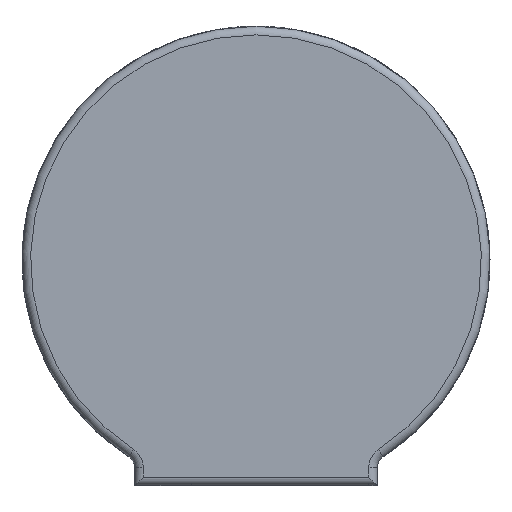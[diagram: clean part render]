
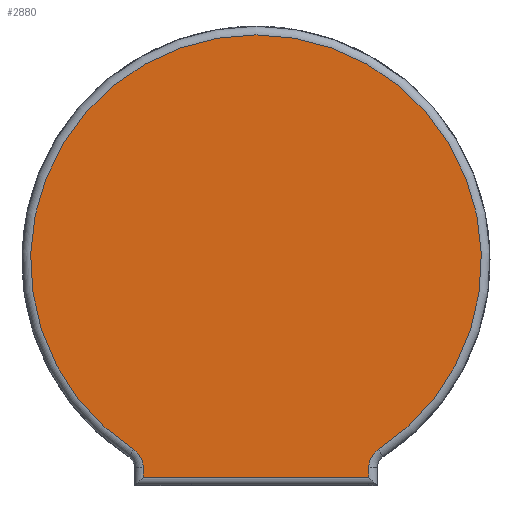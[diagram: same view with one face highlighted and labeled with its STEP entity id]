
A CAD part, front view. The second image highlights one B-rep face of the part: STEP entity #2880.
In plain terms, the highlighted planar face has unit normal (0, -1, 0).
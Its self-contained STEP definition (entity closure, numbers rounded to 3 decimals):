
#72 = CYLINDRICAL_SURFACE('',#73,1.);
#73 = AXIS2_PLACEMENT_3D('',#74,#75,#76);
#74 = CARTESIAN_POINT('',(-13.,-69.,-23.917));
#75 = DIRECTION('',(-0.,-0.,-1.));
#76 = DIRECTION('',(0.,-1.,0.));
#214 = TOROIDAL_SURFACE('',#215,2.5,1.);
#215 = AXIS2_PLACEMENT_3D('',#216,#217,#218);
#216 = CARTESIAN_POINT('',(-15.5,-69.,-23.917));
#217 = DIRECTION('',(-0.,-1.,-0.));
#218 = DIRECTION('',(0.544,-0.,0.839));
#321 = VERTEX_POINT('',#322);
#322 = CARTESIAN_POINT('',(-13.,-70.,-23.917));
#344 = VERTEX_POINT('',#345);
#345 = CARTESIAN_POINT('',(-13.,-70.,-25.));
#365 = CYLINDRICAL_SURFACE('',#366,1.);
#366 = AXIS2_PLACEMENT_3D('',#367,#368,#369);
#367 = CARTESIAN_POINT('',(-14.,-69.,-25.));
#368 = DIRECTION('',(1.,0.,0.));
#369 = DIRECTION('',(0.,-1.,0.));
#382 = EDGE_CURVE('',#321,#344,#383,.T.);
#383 = SURFACE_CURVE('',#384,(#388,#395),.PCURVE_S1.);
#384 = LINE('',#385,#386);
#385 = CARTESIAN_POINT('',(-13.,-70.,-23.917));
#386 = VECTOR('',#387,1.);
#387 = DIRECTION('',(-0.,-0.,-1.));
#388 = PCURVE('',#72,#389);
#389 = DEFINITIONAL_REPRESENTATION('',(#390),#394);
#390 = LINE('',#391,#392);
#391 = CARTESIAN_POINT('',(0.,0.));
#392 = VECTOR('',#393,1.);
#393 = DIRECTION('',(0.,1.));
#394 = ( GEOMETRIC_REPRESENTATION_CONTEXT(2) 
PARAMETRIC_REPRESENTATION_CONTEXT() REPRESENTATION_CONTEXT('2D SPACE',''
  ) );
#395 = PCURVE('',#396,#401);
#396 = PLANE('',#397);
#397 = AXIS2_PLACEMENT_3D('',#398,#399,#400);
#398 = CARTESIAN_POINT('',(-14.,-70.,-26.));
#399 = DIRECTION('',(0.,1.,0.));
#400 = DIRECTION('',(0.,0.,1.));
#401 = DEFINITIONAL_REPRESENTATION('',(#402),#406);
#402 = LINE('',#403,#404);
#403 = CARTESIAN_POINT('',(2.083,1.));
#404 = VECTOR('',#405,1.);
#405 = DIRECTION('',(-1.,-0.));
#406 = ( GEOMETRIC_REPRESENTATION_CONTEXT(2) 
PARAMETRIC_REPRESENTATION_CONTEXT() REPRESENTATION_CONTEXT('2D SPACE',''
  ) );
#1665 = VERTEX_POINT('',#1666);
#1666 = CARTESIAN_POINT('',(-14.14,-70.,-21.819));
#1680 = TOROIDAL_SURFACE('',#1681,26.,1.);
#1681 = AXIS2_PLACEMENT_3D('',#1682,#1683,#1684);
#1682 = CARTESIAN_POINT('',(0.,-69.,0.));
#1683 = DIRECTION('',(0.,1.,0.));
#1684 = DIRECTION('',(0.544,0.,-0.839));
#1691 = EDGE_CURVE('',#1665,#321,#1692,.T.);
#1692 = SURFACE_CURVE('',#1693,(#1698,#1705),.PCURVE_S1.);
#1693 = CIRCLE('',#1694,2.5);
#1694 = AXIS2_PLACEMENT_3D('',#1695,#1696,#1697);
#1695 = CARTESIAN_POINT('',(-15.5,-70.,-23.917));
#1696 = DIRECTION('',(0.,1.,0.));
#1697 = DIRECTION('',(0.544,-0.,0.839));
#1698 = PCURVE('',#214,#1699);
#1699 = DEFINITIONAL_REPRESENTATION('',(#1700),#1704);
#1700 = LINE('',#1701,#1702);
#1701 = CARTESIAN_POINT('',(-0.,1.571));
#1702 = VECTOR('',#1703,1.);
#1703 = DIRECTION('',(-1.,0.));
#1704 = ( GEOMETRIC_REPRESENTATION_CONTEXT(2) 
PARAMETRIC_REPRESENTATION_CONTEXT() REPRESENTATION_CONTEXT('2D SPACE',''
  ) );
#1705 = PCURVE('',#396,#1706);
#1706 = DEFINITIONAL_REPRESENTATION('',(#1707),#1711);
#1707 = CIRCLE('',#1708,2.5);
#1708 = AXIS2_PLACEMENT_2D('',#1709,#1710);
#1709 = CARTESIAN_POINT('',(2.083,-1.5));
#1710 = DIRECTION('',(0.839,0.544));
#1711 = ( GEOMETRIC_REPRESENTATION_CONTEXT(2) 
PARAMETRIC_REPRESENTATION_CONTEXT() REPRESENTATION_CONTEXT('2D SPACE',''
  ) );
#2880 = ADVANCED_FACE('',(#2881),#396,.F.);
#2881 = FACE_BOUND('',#2882,.F.);
#2882 = EDGE_LOOP('',(#2883,#2913,#2934,#2935,#2936,#2964));
#2883 = ORIENTED_EDGE('',*,*,#2884,.F.);
#2884 = EDGE_CURVE('',#2885,#2887,#2889,.T.);
#2885 = VERTEX_POINT('',#2886);
#2886 = CARTESIAN_POINT('',(13.,-70.,-25.));
#2887 = VERTEX_POINT('',#2888);
#2888 = CARTESIAN_POINT('',(13.,-70.,-23.917));
#2889 = SURFACE_CURVE('',#2890,(#2894,#2901),.PCURVE_S1.);
#2890 = LINE('',#2891,#2892);
#2891 = CARTESIAN_POINT('',(13.,-70.,-26.));
#2892 = VECTOR('',#2893,1.);
#2893 = DIRECTION('',(0.,0.,1.));
#2894 = PCURVE('',#396,#2895);
#2895 = DEFINITIONAL_REPRESENTATION('',(#2896),#2900);
#2896 = LINE('',#2897,#2898);
#2897 = CARTESIAN_POINT('',(0.,27.));
#2898 = VECTOR('',#2899,1.);
#2899 = DIRECTION('',(1.,0.));
#2900 = ( GEOMETRIC_REPRESENTATION_CONTEXT(2) 
PARAMETRIC_REPRESENTATION_CONTEXT() REPRESENTATION_CONTEXT('2D SPACE',''
  ) );
#2901 = PCURVE('',#2902,#2907);
#2902 = CYLINDRICAL_SURFACE('',#2903,1.);
#2903 = AXIS2_PLACEMENT_3D('',#2904,#2905,#2906);
#2904 = CARTESIAN_POINT('',(13.,-69.,-26.));
#2905 = DIRECTION('',(0.,0.,1.));
#2906 = DIRECTION('',(0.,-1.,0.));
#2907 = DEFINITIONAL_REPRESENTATION('',(#2908),#2912);
#2908 = LINE('',#2909,#2910);
#2909 = CARTESIAN_POINT('',(0.,0.));
#2910 = VECTOR('',#2911,1.);
#2911 = DIRECTION('',(0.,1.));
#2912 = ( GEOMETRIC_REPRESENTATION_CONTEXT(2) 
PARAMETRIC_REPRESENTATION_CONTEXT() REPRESENTATION_CONTEXT('2D SPACE',''
  ) );
#2913 = ORIENTED_EDGE('',*,*,#2914,.F.);
#2914 = EDGE_CURVE('',#344,#2885,#2915,.T.);
#2915 = SURFACE_CURVE('',#2916,(#2920,#2927),.PCURVE_S1.);
#2916 = LINE('',#2917,#2918);
#2917 = CARTESIAN_POINT('',(-14.,-70.,-25.));
#2918 = VECTOR('',#2919,1.);
#2919 = DIRECTION('',(1.,0.,0.));
#2920 = PCURVE('',#396,#2921);
#2921 = DEFINITIONAL_REPRESENTATION('',(#2922),#2926);
#2922 = LINE('',#2923,#2924);
#2923 = CARTESIAN_POINT('',(1.,0.));
#2924 = VECTOR('',#2925,1.);
#2925 = DIRECTION('',(0.,1.));
#2926 = ( GEOMETRIC_REPRESENTATION_CONTEXT(2) 
PARAMETRIC_REPRESENTATION_CONTEXT() REPRESENTATION_CONTEXT('2D SPACE',''
  ) );
#2927 = PCURVE('',#365,#2928);
#2928 = DEFINITIONAL_REPRESENTATION('',(#2929),#2933);
#2929 = LINE('',#2930,#2931);
#2930 = CARTESIAN_POINT('',(0.,0.));
#2931 = VECTOR('',#2932,1.);
#2932 = DIRECTION('',(0.,1.));
#2933 = ( GEOMETRIC_REPRESENTATION_CONTEXT(2) 
PARAMETRIC_REPRESENTATION_CONTEXT() REPRESENTATION_CONTEXT('2D SPACE',''
  ) );
#2934 = ORIENTED_EDGE('',*,*,#382,.F.);
#2935 = ORIENTED_EDGE('',*,*,#1691,.F.);
#2936 = ORIENTED_EDGE('',*,*,#2937,.F.);
#2937 = EDGE_CURVE('',#2938,#1665,#2940,.T.);
#2938 = VERTEX_POINT('',#2939);
#2939 = CARTESIAN_POINT('',(14.14,-70.,-21.819));
#2940 = SURFACE_CURVE('',#2941,(#2946,#2957),.PCURVE_S1.);
#2941 = CIRCLE('',#2942,26.);
#2942 = AXIS2_PLACEMENT_3D('',#2943,#2944,#2945);
#2943 = CARTESIAN_POINT('',(0.,-70.,0.));
#2944 = DIRECTION('',(0.,-1.,-0.));
#2945 = DIRECTION('',(0.544,0.,-0.839));
#2946 = PCURVE('',#396,#2947);
#2947 = DEFINITIONAL_REPRESENTATION('',(#2948),#2956);
#2948 = ( BOUNDED_CURVE() B_SPLINE_CURVE(2,(#2949,#2950,#2951,#2952,
#2953,#2954,#2955),.UNSPECIFIED.,.T.,.F.) B_SPLINE_CURVE_WITH_KNOTS((1,2
    ,2,2,2,1),(-2.094,0.,2.094,4.189,
6.283,8.378),.UNSPECIFIED.) CURVE() 
GEOMETRIC_REPRESENTATION_ITEM() RATIONAL_B_SPLINE_CURVE((1.,0.5,1.,0.5,
1.,0.5,1.)) REPRESENTATION_ITEM('') );
#2949 = CARTESIAN_POINT('',(4.181,28.14));
#2950 = CARTESIAN_POINT('',(28.673,65.931));
#2951 = CARTESIAN_POINT('',(49.155,25.825));
#2952 = CARTESIAN_POINT('',(69.637,-14.281));
#2953 = CARTESIAN_POINT('',(24.663,-11.966));
#2954 = CARTESIAN_POINT('',(-20.31,-9.651));
#2955 = CARTESIAN_POINT('',(4.181,28.14));
#2956 = ( GEOMETRIC_REPRESENTATION_CONTEXT(2) 
PARAMETRIC_REPRESENTATION_CONTEXT() REPRESENTATION_CONTEXT('2D SPACE',''
  ) );
#2957 = PCURVE('',#1680,#2958);
#2958 = DEFINITIONAL_REPRESENTATION('',(#2959),#2963);
#2959 = LINE('',#2960,#2961);
#2960 = CARTESIAN_POINT('',(-0.,4.712));
#2961 = VECTOR('',#2962,1.);
#2962 = DIRECTION('',(-1.,0.));
#2963 = ( GEOMETRIC_REPRESENTATION_CONTEXT(2) 
PARAMETRIC_REPRESENTATION_CONTEXT() REPRESENTATION_CONTEXT('2D SPACE',''
  ) );
#2964 = ORIENTED_EDGE('',*,*,#2965,.F.);
#2965 = EDGE_CURVE('',#2887,#2938,#2966,.T.);
#2966 = SURFACE_CURVE('',#2967,(#2972,#2979),.PCURVE_S1.);
#2967 = CIRCLE('',#2968,2.5);
#2968 = AXIS2_PLACEMENT_3D('',#2969,#2970,#2971);
#2969 = CARTESIAN_POINT('',(15.5,-70.,-23.917));
#2970 = DIRECTION('',(0.,1.,0.));
#2971 = DIRECTION('',(-1.,0.,0.));
#2972 = PCURVE('',#396,#2973);
#2973 = DEFINITIONAL_REPRESENTATION('',(#2974),#2978);
#2974 = CIRCLE('',#2975,2.5);
#2975 = AXIS2_PLACEMENT_2D('',#2976,#2977);
#2976 = CARTESIAN_POINT('',(2.083,29.5));
#2977 = DIRECTION('',(0.,-1.));
#2978 = ( GEOMETRIC_REPRESENTATION_CONTEXT(2) 
PARAMETRIC_REPRESENTATION_CONTEXT() REPRESENTATION_CONTEXT('2D SPACE',''
  ) );
#2979 = PCURVE('',#2980,#2985);
#2980 = TOROIDAL_SURFACE('',#2981,2.5,1.);
#2981 = AXIS2_PLACEMENT_3D('',#2982,#2983,#2984);
#2982 = CARTESIAN_POINT('',(15.5,-69.,-23.917));
#2983 = DIRECTION('',(-0.,-1.,-0.));
#2984 = DIRECTION('',(-1.,0.,0.));
#2985 = DEFINITIONAL_REPRESENTATION('',(#2986),#2990);
#2986 = LINE('',#2987,#2988);
#2987 = CARTESIAN_POINT('',(-0.,1.571));
#2988 = VECTOR('',#2989,1.);
#2989 = DIRECTION('',(-1.,0.));
#2990 = ( GEOMETRIC_REPRESENTATION_CONTEXT(2) 
PARAMETRIC_REPRESENTATION_CONTEXT() REPRESENTATION_CONTEXT('2D SPACE',''
  ) );
